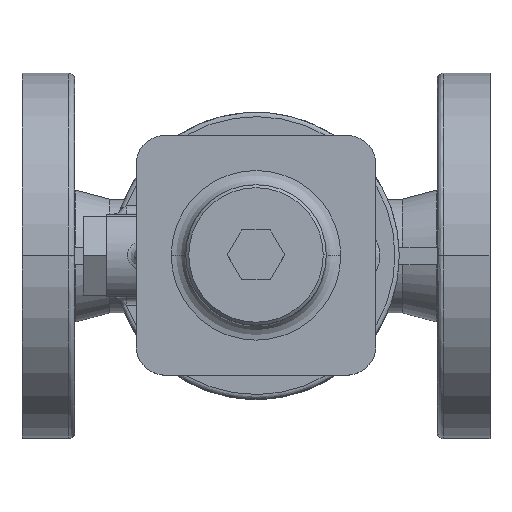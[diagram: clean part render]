
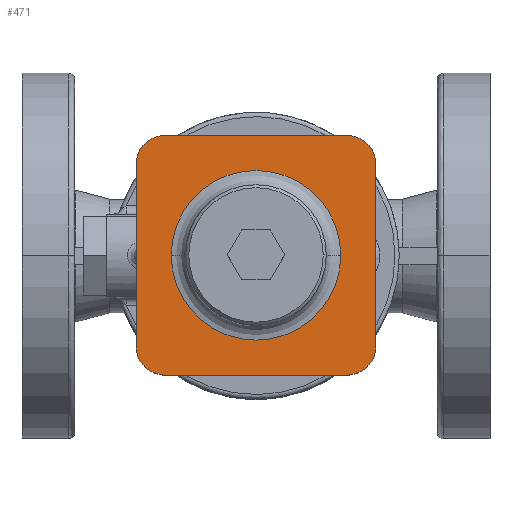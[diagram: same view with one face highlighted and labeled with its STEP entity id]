
A CAD part, top view. The second image highlights one B-rep face of the part: STEP entity #471.
In plain terms, the highlighted planar face has unit normal (0, 0, 1).
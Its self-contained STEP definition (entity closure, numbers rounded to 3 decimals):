
#471=ADVANCED_FACE('',(#3389,#3390),#3388,.T.);
#3388=PLANE('',#6600);
#3389=FACE_OUTER_BOUND('',#6601,.T.);
#3390=FACE_BOUND('',#6602,.T.);
#6597=CARTESIAN_POINT('',(-49.2,-49.2,14.5));
#6598=DIRECTION('',(0.,0.,1.));
#6599=DIRECTION('',(1.,0.,0.));
#6600=AXIS2_PLACEMENT_3D('',#6597,#6598,#6599);
#6601=EDGE_LOOP('',(#8281,#8282,#8283,#8284,#8285,#8286,#8287,#8288));
#6602=EDGE_LOOP('',(#8289,#8290));
#8281=ORIENTED_EDGE('',*,*,#9141,.F.);
#8282=ORIENTED_EDGE('',*,*,#9162,.F.);
#8283=ORIENTED_EDGE('',*,*,#9163,.F.);
#8284=ORIENTED_EDGE('',*,*,#9164,.F.);
#8285=ORIENTED_EDGE('',*,*,#9165,.F.);
#8286=ORIENTED_EDGE('',*,*,#9166,.F.);
#8287=ORIENTED_EDGE('',*,*,#9167,.F.);
#8288=ORIENTED_EDGE('',*,*,#9144,.F.);
#8289=ORIENTED_EDGE('',*,*,#9168,.T.);
#8290=ORIENTED_EDGE('',*,*,#9169,.T.);
#9141=EDGE_CURVE('',#13958,#13965,#13966,.T.);
#9144=EDGE_CURVE('',#13965,#13985,#13986,.T.);
#9162=EDGE_CURVE('',#14109,#13958,#14110,.T.);
#9163=EDGE_CURVE('',#14116,#14109,#14117,.T.);
#9164=EDGE_CURVE('',#14123,#14116,#14124,.T.);
#9165=EDGE_CURVE('',#14130,#14123,#14131,.T.);
#9166=EDGE_CURVE('',#14137,#14130,#14138,.T.);
#9167=EDGE_CURVE('',#13985,#14137,#14144,.T.);
#9168=EDGE_CURVE('',#14150,#14151,#14152,.T.);
#9169=EDGE_CURVE('',#14151,#14150,#14158,.T.);
#13958=VERTEX_POINT('',#18487);
#13965=VERTEX_POINT('',#18491);
#13966=CIRCLE('',#18495,10.);
#13985=VERTEX_POINT('',#18503);
#13986=LINE('',#18504,#18505);
#14109=VERTEX_POINT('',#18580);
#14110=LINE('',#18581,#18582);
#14116=VERTEX_POINT('',#18584);
#14117=CIRCLE('',#18588,10.);
#14123=VERTEX_POINT('',#18589);
#14124=LINE('',#18590,#18591);
#14130=VERTEX_POINT('',#18593);
#14131=CIRCLE('',#18597,10.);
#14137=VERTEX_POINT('',#18598);
#14138=LINE('',#18599,#18600);
#14144=CIRCLE('',#18605,10.);
#14150=VERTEX_POINT('',#18606);
#14151=VERTEX_POINT('',#18607);
#14152=CIRCLE('',#18611,29.);
#14158=CIRCLE('',#18615,29.);
#18487=CARTESIAN_POINT('',(41.,-31.,14.5));
#18491=CARTESIAN_POINT('',(31.,-41.,14.5));
#18492=CARTESIAN_POINT('',(31.,-31.,14.5));
#18493=DIRECTION('',(0.,0.,-1.));
#18494=DIRECTION('',(-1.,0.,0.));
#18495=AXIS2_PLACEMENT_3D('',#18492,#18493,#18494);
#18503=CARTESIAN_POINT('',(-31.,-41.,14.5));
#18504=CARTESIAN_POINT('',(31.,-41.,14.5));
#18505=VECTOR('',#18506,62.);
#18506=DIRECTION('',(-1.,0.,0.));
#18580=CARTESIAN_POINT('',(41.,31.,14.5));
#18581=CARTESIAN_POINT('',(41.,31.,14.5));
#18582=VECTOR('',#18583,62.);
#18583=DIRECTION('',(0.,-1.,0.));
#18584=CARTESIAN_POINT('',(31.,41.,14.5));
#18585=CARTESIAN_POINT('',(31.,31.,14.5));
#18586=DIRECTION('',(0.,0.,-1.));
#18587=DIRECTION('',(-1.,0.,0.));
#18588=AXIS2_PLACEMENT_3D('',#18585,#18586,#18587);
#18589=CARTESIAN_POINT('',(-31.,41.,14.5));
#18590=CARTESIAN_POINT('',(-31.,41.,14.5));
#18591=VECTOR('',#18592,62.);
#18592=DIRECTION('',(1.,0.,0.));
#18593=CARTESIAN_POINT('',(-41.,31.,14.5));
#18594=CARTESIAN_POINT('',(-31.,31.,14.5));
#18595=DIRECTION('',(0.,0.,-1.));
#18596=DIRECTION('',(0.,1.,0.));
#18597=AXIS2_PLACEMENT_3D('',#18594,#18595,#18596);
#18598=CARTESIAN_POINT('',(-41.,-31.,14.5));
#18599=CARTESIAN_POINT('',(-41.,-31.,14.5));
#18600=VECTOR('',#18601,62.);
#18601=DIRECTION('',(0.,1.,0.));
#18602=CARTESIAN_POINT('',(-31.,-31.,14.5));
#18603=DIRECTION('',(0.,0.,-1.));
#18604=DIRECTION('',(-1.,0.,0.));
#18605=AXIS2_PLACEMENT_3D('',#18602,#18603,#18604);
#18606=CARTESIAN_POINT('',(29.,0.,14.5));
#18607=CARTESIAN_POINT('',(-29.,0.,14.5));
#18608=CARTESIAN_POINT('',(0.,0.,14.5));
#18609=DIRECTION('',(0.,0.,-1.));
#18610=DIRECTION('',(1.,0.,0.));
#18611=AXIS2_PLACEMENT_3D('',#18608,#18609,#18610);
#18612=CARTESIAN_POINT('',(0.,0.,14.5));
#18613=DIRECTION('',(0.,0.,-1.));
#18614=DIRECTION('',(1.,0.,0.));
#18615=AXIS2_PLACEMENT_3D('',#18612,#18613,#18614);
